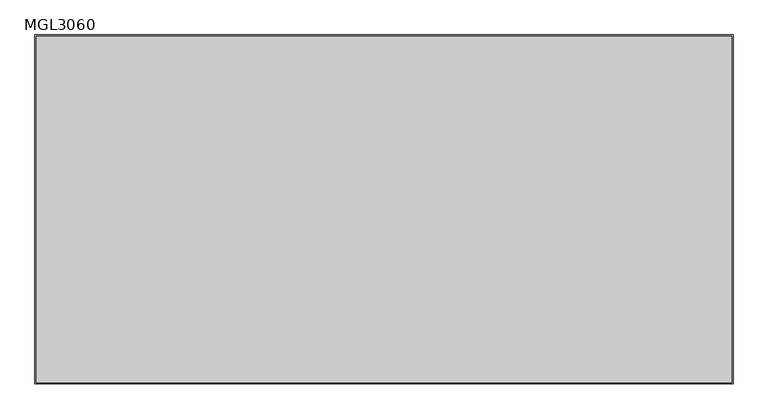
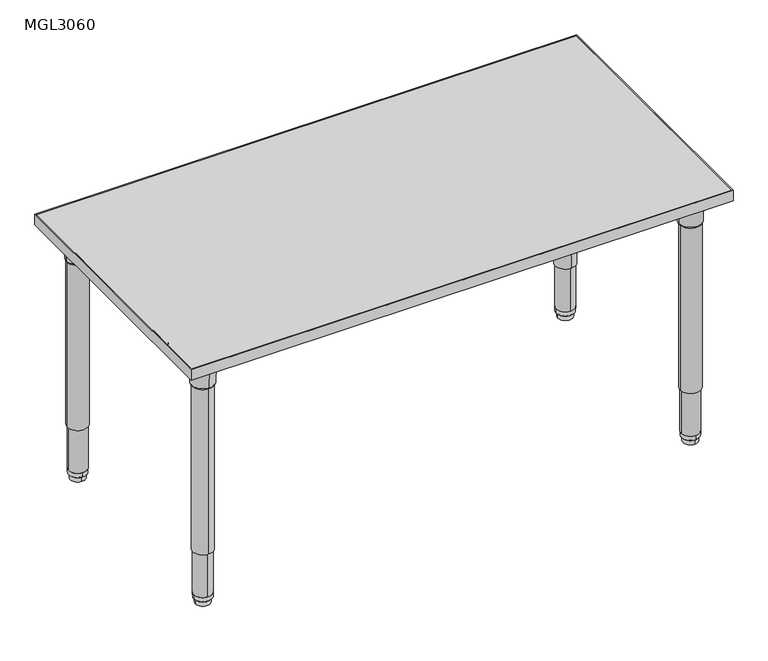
"""IFC4 building model written with IfcOpenShell, lengths in millimetres: furniture geometry, ERG-Mingle-Table-Rectangle : MGL3060."""

from ifc_helpers import new_model, si_unit, point, frame, frame_2d, origin, place, context, project, spatial, polyline, circle_curve, trimmed, segment, composite_curve, outline, extrude, source, transform, mapped, element, save
from ifc_brep_helpers import plane_surface, cylinder_surface, revolved_surface, advanced_brep


def mgl3060_ef460943(model_context):
    return source(origin(), model_context, "Body", "SolidModel", [
        advanced_brep(
        [(655.7646842, -304.8, 650.5933069), (715.8353158, -304.8, 650.5933069), (685.8, -304.8, 650.5933069), (653.656117, -304.8, 654.3580481), (717.943883, -304.8, 654.3580481), (652.7206351, -304.8, 707.7631458), (718.8793649, -304.8, 707.7631458), (649.271083, -304.8, 714.1198315), (722.328917, -304.8, 714.1198315), (649.271083, -304.8, 726.8198315), (722.328917, -304.8, 726.8198315), (685.8, -304.8, 726.8198315)],
        [
            (0, 1, circle_curve(frame((685.8, -304.8, 650.5933069), z_axis=(0.0, 0.0, -1.0), x_axis=(1.0, 0.0, 0.0)), 30.0353158)),
            (1, 2),
            (2, 0),
            (1, 0, circle_curve(frame((685.8, -304.8, 650.5933069), z_axis=(0.0, 0.0, -1.0), x_axis=(1.0, 0.0, 0.0)), 30.0353158)),
            (3, 4, circle_curve(frame((685.8, -304.8, 654.3580481), z_axis=(0.0, 0.0, -1.0), x_axis=(1.0, 0.0, 0.0)), 32.143883)),
            (4, 1),
            (0, 3),
            (4, 3, circle_curve(frame((685.8, -304.8, 654.3580481), z_axis=(0.0, 0.0, -1.0), x_axis=(1.0, 0.0, 0.0)), 32.143883)),
            (5, 6, circle_curve(frame((685.8, -304.8, 707.7631458), z_axis=(0.0, 0.0, -1.0), x_axis=(1.0, 0.0, 0.0)), 33.0793649)),
            (6, 4),
            (3, 5),
            (6, 5, circle_curve(frame((685.8, -304.8, 707.7631458), z_axis=(0.0, 0.0, -1.0), x_axis=(1.0, 0.0, 0.0)), 33.0793649)),
            (7, 8, circle_curve(frame((685.8, -304.8, 714.1198315), z_axis=(0.0, 0.0, -1.0), x_axis=(1.0, 0.0, 0.0)), 36.528917)),
            (8, 6),
            (5, 7),
            (8, 7, circle_curve(frame((685.8, -304.8, 714.1198315), z_axis=(0.0, 0.0, -1.0), x_axis=(1.0, 0.0, 0.0)), 36.528917)),
            (9, 10, circle_curve(frame((685.8, -304.8, 726.8198315), z_axis=(0.0, 0.0, -1.0), x_axis=(1.0, 0.0, 0.0)), 36.528917)),
            (10, 8),
            (7, 9),
            (10, 9, circle_curve(frame((685.8, -304.8, 726.8198315), z_axis=(0.0, 0.0, -1.0), x_axis=(1.0, 0.0, 0.0)), 36.528917)),
            (11, 10),
            (9, 11),
        ],
        [
            plane_surface(frame((685.8, -304.8, 650.5933069), z_axis=(0.0, 0.0, -1.0), x_axis=(1.0, 0.0, 0.0))),
            revolved_surface(polyline([(715.8353158, -304.8, 650.5933069), (717.943883, -304.8, 654.3580481)]), (685.8, -304.8, 726.8198315), (0.0, 0.0, 1.0)),
            revolved_surface(polyline([(717.943883, -304.8, 654.3580481), (718.8793649, -304.8, 707.7631458)]), (685.8, -304.8, 726.8198315), (0.0, 0.0, 1.0)),
            revolved_surface(polyline([(718.8793649, -304.8, 707.7631458), (722.328917, -304.8, 714.1198315)]), (685.8, -304.8, 726.8198315), (0.0, 0.0, 1.0)),
            cylinder_surface(frame((685.8, -304.8, 726.8198315), z_axis=(0.0, 0.0, 1.0), x_axis=(1.0, 0.0, 0.0)), 36.528917),
            plane_surface(frame((685.8, -304.8, 726.8198315), z_axis=(0.0, 0.0, 1.0), x_axis=(1.0, 0.0, 0.0))),
        ],
        [
            (0, [[1, 2, 3]]),
            (0, [[4, -3, -2]]),
            (1, [[5, 6, -1, 7]]),
            (1, [[8, -7, -4, -6]]),
            (2, [[9, 10, -5, 11]]),
            (2, [[12, -11, -8, -10]]),
            (3, [[13, 14, -9, 15]]),
            (3, [[16, -15, -12, -14]]),
            (4, [[17, 18, -13, 19]]),
            (4, [[20, -19, -16, -18]]),
            (5, [[21, -17, 22]]),
            (5, [[-22, -20, -21]]),
        ],
    ),
        extrude(outline(composite_curve([segment(polyline([(731.673768, -222.2223426), (731.673768, -335.9483754)]), True, "CONTINUOUS"), segment(trimmed(circle_curve(frame_2d((715.798768, -335.9483754)), 15.875), [point((731.673768, -335.9483754))], [point((715.798768, -351.8233754))], False, "CARTESIAN"), True, "CONTINUOUS"), segment(polyline([(715.798768, -351.8233754), (602.0864205, -351.8233754)]), True, "CONTINUOUS"), segment(trimmed(circle_curve(frame_2d((602.0864205, -339.1233754)), 12.7), [point((602.0864205, -351.8233754))], [point((589.4491923, -337.8622394))], False, "CARTESIAN"), True, "CONTINUOUS"), segment(trimmed(circle_curve(frame_2d((731.9486077, -352.0830117)), 143.2072406), [point((589.4491923, -337.8622394))], [point((717.7111525, -209.5852622))], False, "CARTESIAN"), True, "CONTINUOUS"), segment(trimmed(circle_curve(frame_2d((718.973768, -222.2223426)), 12.7), [point((717.7111525, -209.5852622))], [point((731.673768, -222.2223426))], False, "CARTESIAN"), True, "CONTINUOUS")], self_intersect=False)), frame((0.0, 0.0, 726.8198315), z_axis=(0.0, 0.0, 1.0), x_axis=(1.0, 0.0, 0.0)), (0.0, 0.0, 1.0), 3.4301685),
        extrude(outline(composite_curve([segment(trimmed(circle_curve(frame_2d((685.8, -304.8)), 28.575), [point((714.375, -304.8))], [point((657.225, -304.8))], False, "CARTESIAN"), True, "CONTINUOUS"), segment(trimmed(circle_curve(frame_2d((685.8, -304.8)), 28.575), [point((657.225, -304.8))], [point((714.375, -304.8))], False, "CARTESIAN"), True, "CONTINUOUS")], self_intersect=False)), frame((0.0, 0.0, 158.3876979), z_axis=(0.0, 0.0, 1.0), x_axis=(1.0, 0.0, 0.0)), (0.0, 0.0, 1.0), 495.4089866),
        extrude(outline(composite_curve([segment(trimmed(circle_curve(frame_2d((685.8, -304.8)), 25.4), [point((711.2, -304.8))], [point((660.4, -304.8))], False, "CARTESIAN"), True, "CONTINUOUS"), segment(trimmed(circle_curve(frame_2d((685.8, -304.8)), 25.4), [point((660.4, -304.8))], [point((711.2, -304.8))], False, "CARTESIAN"), True, "CONTINUOUS")], self_intersect=False)), frame((0.0, 0.0, 28.9580435), z_axis=(0.0, 0.0, 1.0), x_axis=(1.0, 0.0, 0.0)), (0.0, 0.0, 1.0), 176.7049119),
        advanced_brep(
        [(685.8, -279.5649896, 28.9580185), (685.8, -330.0350104, 28.9580185), (685.8, -304.8, 28.9580185), (685.8, -279.700761, 16.3032949), (685.8, -329.899239, 16.3032949), (685.8, -281.2160619, 14.7291007), (685.8, -328.3839381, 14.7291007), (685.8, -283.6591422, 14.7291007), (685.8, -325.9408578, 14.7291007), (685.8, -283.8521336, 0.0), (685.8, -325.7478664, 0.0), (685.8, -304.8, 0.0)],
        [
            (0, 1, circle_curve(frame((685.8, -304.8, 28.9580185), z_axis=(0.0, 0.0, 1.0), x_axis=(0.0, -1.0, 0.0)), 25.2350104)),
            (1, 2),
            (2, 0),
            (1, 0, circle_curve(frame((685.8, -304.8, 28.9580185), z_axis=(0.0, 0.0, 1.0), x_axis=(0.0, -1.0, 0.0)), 25.2350104)),
            (3, 4, circle_curve(frame((685.8, -304.8, 16.3032949), z_axis=(0.0, 0.0, 1.0), x_axis=(0.0, -1.0, 0.0)), 25.099239)),
            (4, 1),
            (0, 3),
            (4, 3, circle_curve(frame((685.8, -304.8, 16.3032949), z_axis=(0.0, 0.0, 1.0), x_axis=(0.0, -1.0, 0.0)), 25.099239)),
            (5, 6, circle_curve(frame((685.8, -304.8, 14.7291007), z_axis=(0.0, 0.0, 1.0), x_axis=(0.0, -1.0, 0.0)), 23.5839381)),
            (6, 4),
            (3, 5),
            (6, 5, circle_curve(frame((685.8, -304.8, 14.7291007), z_axis=(0.0, 0.0, 1.0), x_axis=(0.0, -1.0, 0.0)), 23.5839381)),
            (7, 8, circle_curve(frame((685.8, -304.8, 14.7291007), z_axis=(0.0, 0.0, 1.0), x_axis=(0.0, -1.0, 0.0)), 21.1408578)),
            (8, 6),
            (5, 7),
            (8, 7, circle_curve(frame((685.8, -304.8, 14.7291007), z_axis=(0.0, 0.0, 1.0), x_axis=(0.0, -1.0, 0.0)), 21.1408578)),
            (9, 10, circle_curve(frame((685.8, -304.8, 0.0), z_axis=(0.0, 0.0, 1.0), x_axis=(0.0, -1.0, 0.0)), 20.9478664)),
            (10, 8),
            (7, 9),
            (10, 9, circle_curve(frame((685.8, -304.8, 0.0), z_axis=(0.0, 0.0, 1.0), x_axis=(0.0, -1.0, 0.0)), 20.9478664)),
            (11, 10),
            (9, 11),
        ],
        [
            plane_surface(frame((685.8, -304.8, 28.9580185), z_axis=(0.0, 0.0, 1.0), x_axis=(0.0, -1.0, 0.0))),
            revolved_surface(polyline([(685.8, -330.0350104, 28.9580185), (685.8, -329.899239, 16.3032949)]), (685.8, -304.8, 0.0), (0.0, 0.0, -1.0)),
            revolved_surface(polyline([(685.8, -329.899239, 16.3032949), (685.8, -328.3839381, 14.7291007)]), (685.8, -304.8, 0.0), (0.0, 0.0, -1.0)),
            plane_surface(frame((685.8, -304.8, 14.7291007), z_axis=(0.0, 0.0, -1.0), x_axis=(0.0, -1.0, 0.0))),
            revolved_surface(polyline([(685.8, -325.9408578, 14.7291007), (685.8, -325.7478664, 0.0)]), (685.8, -304.8, 0.0), (0.0, 0.0, -1.0)),
            plane_surface(frame((685.8, -304.8, 0.0), z_axis=(0.0, 0.0, -1.0), x_axis=(0.0, -1.0, 0.0))),
        ],
        [
            (0, [[1, 2, 3]]),
            (0, [[4, -3, -2]]),
            (1, [[5, 6, -1, 7]]),
            (1, [[8, -7, -4, -6]]),
            (2, [[9, 10, -5, 11]]),
            (2, [[12, -11, -8, -10]]),
            (3, [[13, 14, -9, 15]]),
            (3, [[16, -15, -12, -14]]),
            (4, [[17, 18, -13, 19]]),
            (4, [[20, -19, -16, -18]]),
            (5, [[21, -17, 22]]),
            (5, [[-22, -20, -21]]),
        ],
    ),
        advanced_brep(
        [(-685.8, -274.7646842, 650.5933069), (-685.8, -334.8353158, 650.5933069), (-685.8, -304.8, 650.5933069), (-685.8, -272.656117, 654.3580481), (-685.8, -336.943883, 654.3580481), (-685.8, -271.7206351, 707.7631458), (-685.8, -337.8793649, 707.7631458), (-685.8, -268.271083, 714.1198315), (-685.8, -341.328917, 714.1198315), (-685.8, -268.271083, 726.8198315), (-685.8, -341.328917, 726.8198315), (-685.8, -304.8, 726.8198315)],
        [
            (0, 1, circle_curve(frame((-685.8, -304.8, 650.5933069), z_axis=(0.0, 0.0, -1.0), x_axis=(0.0, -1.0, 0.0)), 30.0353158)),
            (1, 2),
            (2, 0),
            (1, 0, circle_curve(frame((-685.8, -304.8, 650.5933069), z_axis=(0.0, 0.0, -1.0), x_axis=(0.0, -1.0, 0.0)), 30.0353158)),
            (3, 4, circle_curve(frame((-685.8, -304.8, 654.3580481), z_axis=(0.0, 0.0, -1.0), x_axis=(0.0, -1.0, 0.0)), 32.143883)),
            (4, 1),
            (0, 3),
            (4, 3, circle_curve(frame((-685.8, -304.8, 654.3580481), z_axis=(0.0, 0.0, -1.0), x_axis=(0.0, -1.0, 0.0)), 32.143883)),
            (5, 6, circle_curve(frame((-685.8, -304.8, 707.7631458), z_axis=(0.0, 0.0, -1.0), x_axis=(0.0, -1.0, 0.0)), 33.0793649)),
            (6, 4),
            (3, 5),
            (6, 5, circle_curve(frame((-685.8, -304.8, 707.7631458), z_axis=(0.0, 0.0, -1.0), x_axis=(0.0, -1.0, 0.0)), 33.0793649)),
            (7, 8, circle_curve(frame((-685.8, -304.8, 714.1198315), z_axis=(0.0, 0.0, -1.0), x_axis=(0.0, -1.0, 0.0)), 36.528917)),
            (8, 6),
            (5, 7),
            (8, 7, circle_curve(frame((-685.8, -304.8, 714.1198315), z_axis=(0.0, 0.0, -1.0), x_axis=(0.0, -1.0, 0.0)), 36.528917)),
            (9, 10, circle_curve(frame((-685.8, -304.8, 726.8198315), z_axis=(0.0, 0.0, -1.0), x_axis=(0.0, -1.0, 0.0)), 36.528917)),
            (10, 8),
            (7, 9),
            (10, 9, circle_curve(frame((-685.8, -304.8, 726.8198315), z_axis=(0.0, 0.0, -1.0), x_axis=(0.0, -1.0, 0.0)), 36.528917)),
            (11, 10),
            (9, 11),
        ],
        [
            plane_surface(frame((-685.8, -304.8, 650.5933069), z_axis=(0.0, 0.0, -1.0), x_axis=(0.0, -1.0, 0.0))),
            revolved_surface(polyline([(-685.8, -334.8353158, 650.5933069), (-685.8, -336.943883, 654.3580481)]), (-685.8, -304.8, 726.8198315), (0.0, 0.0, 1.0)),
            revolved_surface(polyline([(-685.8, -336.943883, 654.3580481), (-685.8, -337.8793649, 707.7631458)]), (-685.8, -304.8, 726.8198315), (0.0, 0.0, 1.0)),
            revolved_surface(polyline([(-685.8, -337.8793649, 707.7631458), (-685.8, -341.328917, 714.1198315)]), (-685.8, -304.8, 726.8198315), (0.0, 0.0, 1.0)),
            cylinder_surface(frame((-685.8, -304.8, 726.8198315), z_axis=(0.0, 0.0, 1.0), x_axis=(0.0, -1.0, 0.0)), 36.528917),
            plane_surface(frame((-685.8, -304.8, 726.8198315), z_axis=(0.0, 0.0, 1.0), x_axis=(0.0, -1.0, 0.0))),
        ],
        [
            (0, [[1, 2, 3]]),
            (0, [[4, -3, -2]]),
            (1, [[5, 6, -1, 7]]),
            (1, [[8, -7, -4, -6]]),
            (2, [[9, 10, -5, 11]]),
            (2, [[12, -11, -8, -10]]),
            (3, [[13, 14, -9, 15]]),
            (3, [[16, -15, -12, -14]]),
            (4, [[17, 18, -13, 19]]),
            (4, [[20, -19, -16, -18]]),
            (5, [[21, -17, 22]]),
            (5, [[-22, -20, -21]]),
        ],
    ),
        extrude(outline(composite_curve([segment(polyline([(-603.2223426, -350.673768), (-716.9483754, -350.673768)]), True, "CONTINUOUS"), segment(trimmed(circle_curve(frame_2d((-716.9483754, -334.798768)), 15.875), [point((-716.9483754, -350.673768))], [point((-732.8233754, -334.798768))], False, "CARTESIAN"), True, "CONTINUOUS"), segment(polyline([(-732.8233754, -334.798768), (-732.8233754, -221.0864205)]), True, "CONTINUOUS"), segment(trimmed(circle_curve(frame_2d((-720.1233754, -221.0864205)), 12.7), [point((-732.8233754, -221.0864205))], [point((-718.8622394, -208.4491923))], False, "CARTESIAN"), True, "CONTINUOUS"), segment(trimmed(circle_curve(frame_2d((-733.0830117, -350.9486077)), 143.2072406), [point((-718.8622394, -208.4491923))], [point((-590.5852622, -336.7111525))], False, "CARTESIAN"), True, "CONTINUOUS"), segment(trimmed(circle_curve(frame_2d((-603.2223426, -337.973768)), 12.7), [point((-590.5852622, -336.7111525))], [point((-603.2223426, -350.673768))], False, "CARTESIAN"), True, "CONTINUOUS")], self_intersect=False)), frame((0.0, 0.0, 726.8198315), z_axis=(0.0, 0.0, 1.0), x_axis=(1.0, 0.0, 0.0)), (0.0, 0.0, 1.0), 3.4301685),
        extrude(outline(composite_curve([segment(trimmed(circle_curve(frame_2d((-685.8, -304.8)), 28.575), [point((-685.8, -333.375))], [point((-685.8, -276.225))], False, "CARTESIAN"), True, "CONTINUOUS"), segment(trimmed(circle_curve(frame_2d((-685.8, -304.8)), 28.575), [point((-685.8, -276.225))], [point((-685.8, -333.375))], False, "CARTESIAN"), True, "CONTINUOUS")], self_intersect=False)), frame((0.0, 0.0, 158.3876979), z_axis=(0.0, 0.0, 1.0), x_axis=(1.0, 0.0, 0.0)), (0.0, 0.0, 1.0), 495.4089866),
        extrude(outline(composite_curve([segment(trimmed(circle_curve(frame_2d((-685.8, -304.8)), 25.4), [point((-685.8, -330.2))], [point((-685.8, -279.4))], False, "CARTESIAN"), True, "CONTINUOUS"), segment(trimmed(circle_curve(frame_2d((-685.8, -304.8)), 25.4), [point((-685.8, -279.4))], [point((-685.8, -330.2))], False, "CARTESIAN"), True, "CONTINUOUS")], self_intersect=False)), frame((0.0, 0.0, 28.9580435), z_axis=(0.0, 0.0, 1.0), x_axis=(1.0, 0.0, 0.0)), (0.0, 0.0, 1.0), 176.7049119),
        advanced_brep(
        [(-660.5649896, -304.8, 28.9580185), (-711.0350104, -304.8, 28.9580185), (-685.8, -304.8, 28.9580185), (-660.700761, -304.8, 16.3032949), (-710.899239, -304.8, 16.3032949), (-662.2160619, -304.8, 14.7291007), (-709.3839381, -304.8, 14.7291007), (-664.6591422, -304.8, 14.7291007), (-706.9408578, -304.8, 14.7291007), (-664.8521336, -304.8, 0.0), (-706.7478664, -304.8, 0.0), (-685.8, -304.8, 0.0)],
        [
            (0, 1, circle_curve(frame((-685.8, -304.8, 28.9580185), z_axis=(0.0, 0.0, 1.0), x_axis=(-1.0, 0.0, 0.0)), 25.2350104)),
            (1, 2),
            (2, 0),
            (1, 0, circle_curve(frame((-685.8, -304.8, 28.9580185), z_axis=(0.0, 0.0, 1.0), x_axis=(-1.0, 0.0, 0.0)), 25.2350104)),
            (3, 4, circle_curve(frame((-685.8, -304.8, 16.3032949), z_axis=(0.0, 0.0, 1.0), x_axis=(-1.0, 0.0, 0.0)), 25.099239)),
            (4, 1),
            (0, 3),
            (4, 3, circle_curve(frame((-685.8, -304.8, 16.3032949), z_axis=(0.0, 0.0, 1.0), x_axis=(-1.0, 0.0, 0.0)), 25.099239)),
            (5, 6, circle_curve(frame((-685.8, -304.8, 14.7291007), z_axis=(0.0, 0.0, 1.0), x_axis=(-1.0, 0.0, 0.0)), 23.5839381)),
            (6, 4),
            (3, 5),
            (6, 5, circle_curve(frame((-685.8, -304.8, 14.7291007), z_axis=(0.0, 0.0, 1.0), x_axis=(-1.0, 0.0, 0.0)), 23.5839381)),
            (7, 8, circle_curve(frame((-685.8, -304.8, 14.7291007), z_axis=(0.0, 0.0, 1.0), x_axis=(-1.0, 0.0, 0.0)), 21.1408578)),
            (8, 6),
            (5, 7),
            (8, 7, circle_curve(frame((-685.8, -304.8, 14.7291007), z_axis=(0.0, 0.0, 1.0), x_axis=(-1.0, 0.0, 0.0)), 21.1408578)),
            (9, 10, circle_curve(frame((-685.8, -304.8, 0.0), z_axis=(0.0, 0.0, 1.0), x_axis=(-1.0, 0.0, 0.0)), 20.9478664)),
            (10, 8),
            (7, 9),
            (10, 9, circle_curve(frame((-685.8, -304.8, 0.0), z_axis=(0.0, 0.0, 1.0), x_axis=(-1.0, 0.0, 0.0)), 20.9478664)),
            (11, 10),
            (9, 11),
        ],
        [
            plane_surface(frame((-685.8, -304.8, 28.9580185), z_axis=(0.0, 0.0, 1.0), x_axis=(-1.0, 0.0, 0.0))),
            revolved_surface(polyline([(-711.0350104, -304.8, 28.9580185), (-710.899239, -304.8, 16.3032949)]), (-685.8, -304.8, 0.0), (0.0, 0.0, -1.0)),
            revolved_surface(polyline([(-710.899239, -304.8, 16.3032949), (-709.3839381, -304.8, 14.7291007)]), (-685.8, -304.8, 0.0), (0.0, 0.0, -1.0)),
            plane_surface(frame((-685.8, -304.8, 14.7291007), z_axis=(0.0, 0.0, -1.0), x_axis=(-1.0, 0.0, 0.0))),
            revolved_surface(polyline([(-706.9408578, -304.8, 14.7291007), (-706.7478664, -304.8, 0.0)]), (-685.8, -304.8, 0.0), (0.0, 0.0, -1.0)),
            plane_surface(frame((-685.8, -304.8, 0.0), z_axis=(0.0, 0.0, -1.0), x_axis=(-1.0, 0.0, 0.0))),
        ],
        [
            (0, [[1, 2, 3]]),
            (0, [[4, -3, -2]]),
            (1, [[5, 6, -1, 7]]),
            (1, [[8, -7, -4, -6]]),
            (2, [[9, 10, -5, 11]]),
            (2, [[12, -11, -8, -10]]),
            (3, [[13, 14, -9, 15]]),
            (3, [[16, -15, -12, -14]]),
            (4, [[17, 18, -13, 19]]),
            (4, [[20, -19, -16, -18]]),
            (5, [[21, -17, 22]]),
            (5, [[-22, -20, -21]]),
        ],
    ),
        advanced_brep(
        [(685.8, 274.7646842, 650.5933069), (685.8, 334.8353158, 650.5933069), (685.8, 304.8, 650.5933069), (685.8, 272.656117, 654.3580481), (685.8, 336.943883, 654.3580481), (685.8, 271.7206351, 707.7631458), (685.8, 337.8793649, 707.7631458), (685.8, 268.271083, 714.1198315), (685.8, 341.328917, 714.1198315), (685.8, 268.271083, 726.8198315), (685.8, 341.328917, 726.8198315), (685.8, 304.8, 726.8198315)],
        [
            (0, 1, circle_curve(frame((685.8, 304.8, 650.5933069), z_axis=(0.0, 0.0, -1.0), x_axis=(0.0, 1.0, 0.0)), 30.0353158)),
            (1, 2),
            (2, 0),
            (1, 0, circle_curve(frame((685.8, 304.8, 650.5933069), z_axis=(0.0, 0.0, -1.0), x_axis=(0.0, 1.0, 0.0)), 30.0353158)),
            (3, 4, circle_curve(frame((685.8, 304.8, 654.3580481), z_axis=(0.0, 0.0, -1.0), x_axis=(0.0, 1.0, 0.0)), 32.143883)),
            (4, 1),
            (0, 3),
            (4, 3, circle_curve(frame((685.8, 304.8, 654.3580481), z_axis=(0.0, 0.0, -1.0), x_axis=(0.0, 1.0, 0.0)), 32.143883)),
            (5, 6, circle_curve(frame((685.8, 304.8, 707.7631458), z_axis=(0.0, 0.0, -1.0), x_axis=(0.0, 1.0, 0.0)), 33.0793649)),
            (6, 4),
            (3, 5),
            (6, 5, circle_curve(frame((685.8, 304.8, 707.7631458), z_axis=(0.0, 0.0, -1.0), x_axis=(0.0, 1.0, 0.0)), 33.0793649)),
            (7, 8, circle_curve(frame((685.8, 304.8, 714.1198315), z_axis=(0.0, 0.0, -1.0), x_axis=(0.0, 1.0, 0.0)), 36.528917)),
            (8, 6),
            (5, 7),
            (8, 7, circle_curve(frame((685.8, 304.8, 714.1198315), z_axis=(0.0, 0.0, -1.0), x_axis=(0.0, 1.0, 0.0)), 36.528917)),
            (9, 10, circle_curve(frame((685.8, 304.8, 726.8198315), z_axis=(0.0, 0.0, -1.0), x_axis=(0.0, 1.0, 0.0)), 36.528917)),
            (10, 8),
            (7, 9),
            (10, 9, circle_curve(frame((685.8, 304.8, 726.8198315), z_axis=(0.0, 0.0, -1.0), x_axis=(0.0, 1.0, 0.0)), 36.528917)),
            (11, 10),
            (9, 11),
        ],
        [
            plane_surface(frame((685.8, 304.8, 650.5933069), z_axis=(0.0, 0.0, -1.0), x_axis=(0.0, 1.0, 0.0))),
            revolved_surface(polyline([(685.8, 334.8353158, 650.5933069), (685.8, 336.943883, 654.3580481)]), (685.8, 304.8, 726.8198315), (0.0, 0.0, 1.0)),
            revolved_surface(polyline([(685.8, 336.943883, 654.3580481), (685.8, 337.8793649, 707.7631458)]), (685.8, 304.8, 726.8198315), (0.0, 0.0, 1.0)),
            revolved_surface(polyline([(685.8, 337.8793649, 707.7631458), (685.8, 341.328917, 714.1198315)]), (685.8, 304.8, 726.8198315), (0.0, 0.0, 1.0)),
            cylinder_surface(frame((685.8, 304.8, 726.8198315), z_axis=(0.0, 0.0, 1.0), x_axis=(0.0, 1.0, 0.0)), 36.528917),
            plane_surface(frame((685.8, 304.8, 726.8198315), z_axis=(0.0, 0.0, 1.0), x_axis=(0.0, 1.0, 0.0))),
        ],
        [
            (0, [[1, 2, 3]]),
            (0, [[4, -3, -2]]),
            (1, [[5, 6, -1, 7]]),
            (1, [[8, -7, -4, -6]]),
            (2, [[9, 10, -5, 11]]),
            (2, [[12, -11, -8, -10]]),
            (3, [[13, 14, -9, 15]]),
            (3, [[16, -15, -12, -14]]),
            (4, [[17, 18, -13, 19]]),
            (4, [[20, -19, -16, -18]]),
            (5, [[21, -17, 22]]),
            (5, [[-22, -20, -21]]),
        ],
    ),
        extrude(outline(composite_curve([segment(polyline([(603.2223426, 350.673768), (716.9483754, 350.673768)]), True, "CONTINUOUS"), segment(trimmed(circle_curve(frame_2d((716.9483754, 334.798768)), 15.875), [point((716.9483754, 350.673768))], [point((732.8233754, 334.798768))], False, "CARTESIAN"), True, "CONTINUOUS"), segment(polyline([(732.8233754, 334.798768), (732.8233754, 221.0864205)]), True, "CONTINUOUS"), segment(trimmed(circle_curve(frame_2d((720.1233754, 221.0864205)), 12.7), [point((732.8233754, 221.0864205))], [point((718.8622394, 208.4491923))], False, "CARTESIAN"), True, "CONTINUOUS"), segment(trimmed(circle_curve(frame_2d((733.0830117, 350.9486077)), 143.2072406), [point((718.8622394, 208.4491923))], [point((590.5852622, 336.7111525))], False, "CARTESIAN"), True, "CONTINUOUS"), segment(trimmed(circle_curve(frame_2d((603.2223426, 337.973768)), 12.7), [point((590.5852622, 336.7111525))], [point((603.2223426, 350.673768))], False, "CARTESIAN"), True, "CONTINUOUS")], self_intersect=False)), frame((0.0, 0.0, 726.8198315), z_axis=(0.0, 0.0, 1.0), x_axis=(1.0, 0.0, 0.0)), (0.0, 0.0, 1.0), 3.4301685),
        extrude(outline(composite_curve([segment(trimmed(circle_curve(frame_2d((685.8, 304.8)), 28.575), [point((685.8, 333.375))], [point((685.8, 276.225))], False, "CARTESIAN"), True, "CONTINUOUS"), segment(trimmed(circle_curve(frame_2d((685.8, 304.8)), 28.575), [point((685.8, 276.225))], [point((685.8, 333.375))], False, "CARTESIAN"), True, "CONTINUOUS")], self_intersect=False)), frame((0.0, 0.0, 158.3876979), z_axis=(0.0, 0.0, 1.0), x_axis=(1.0, 0.0, 0.0)), (0.0, 0.0, 1.0), 495.4089866),
        extrude(outline(composite_curve([segment(trimmed(circle_curve(frame_2d((685.8, 304.8)), 25.4), [point((685.8, 330.2))], [point((685.8, 279.4))], False, "CARTESIAN"), True, "CONTINUOUS"), segment(trimmed(circle_curve(frame_2d((685.8, 304.8)), 25.4), [point((685.8, 279.4))], [point((685.8, 330.2))], False, "CARTESIAN"), True, "CONTINUOUS")], self_intersect=False)), frame((0.0, 0.0, 28.9580435), z_axis=(0.0, 0.0, 1.0), x_axis=(1.0, 0.0, 0.0)), (0.0, 0.0, 1.0), 176.7049119),
        advanced_brep(
        [(660.5649896, 304.8, 28.9580185), (711.0350104, 304.8, 28.9580185), (685.8, 304.8, 28.9580185), (660.700761, 304.8, 16.3032949), (710.899239, 304.8, 16.3032949), (662.2160619, 304.8, 14.7291007), (709.3839381, 304.8, 14.7291007), (664.6591422, 304.8, 14.7291007), (706.9408578, 304.8, 14.7291007), (664.8521336, 304.8, 0.0), (706.7478664, 304.8, 0.0), (685.8, 304.8, 0.0)],
        [
            (0, 1, circle_curve(frame((685.8, 304.8, 28.9580185), z_axis=(0.0, 0.0, 1.0), x_axis=(1.0, 0.0, 0.0)), 25.2350104)),
            (1, 2),
            (2, 0),
            (1, 0, circle_curve(frame((685.8, 304.8, 28.9580185), z_axis=(0.0, 0.0, 1.0), x_axis=(1.0, 0.0, 0.0)), 25.2350104)),
            (3, 4, circle_curve(frame((685.8, 304.8, 16.3032949), z_axis=(0.0, 0.0, 1.0), x_axis=(1.0, 0.0, 0.0)), 25.099239)),
            (4, 1),
            (0, 3),
            (4, 3, circle_curve(frame((685.8, 304.8, 16.3032949), z_axis=(0.0, 0.0, 1.0), x_axis=(1.0, 0.0, 0.0)), 25.099239)),
            (5, 6, circle_curve(frame((685.8, 304.8, 14.7291007), z_axis=(0.0, 0.0, 1.0), x_axis=(1.0, 0.0, 0.0)), 23.5839381)),
            (6, 4),
            (3, 5),
            (6, 5, circle_curve(frame((685.8, 304.8, 14.7291007), z_axis=(0.0, 0.0, 1.0), x_axis=(1.0, 0.0, 0.0)), 23.5839381)),
            (7, 8, circle_curve(frame((685.8, 304.8, 14.7291007), z_axis=(0.0, 0.0, 1.0), x_axis=(1.0, 0.0, 0.0)), 21.1408578)),
            (8, 6),
            (5, 7),
            (8, 7, circle_curve(frame((685.8, 304.8, 14.7291007), z_axis=(0.0, 0.0, 1.0), x_axis=(1.0, 0.0, 0.0)), 21.1408578)),
            (9, 10, circle_curve(frame((685.8, 304.8, 0.0), z_axis=(0.0, 0.0, 1.0), x_axis=(1.0, 0.0, 0.0)), 20.9478664)),
            (10, 8),
            (7, 9),
            (10, 9, circle_curve(frame((685.8, 304.8, 0.0), z_axis=(0.0, 0.0, 1.0), x_axis=(1.0, 0.0, 0.0)), 20.9478664)),
            (11, 10),
            (9, 11),
        ],
        [
            plane_surface(frame((685.8, 304.8, 28.9580185), z_axis=(0.0, 0.0, 1.0), x_axis=(1.0, 0.0, 0.0))),
            revolved_surface(polyline([(711.0350104, 304.8, 28.9580185), (710.899239, 304.8, 16.3032949)]), (685.8, 304.8, 0.0), (0.0, 0.0, -1.0)),
            revolved_surface(polyline([(710.899239, 304.8, 16.3032949), (709.3839381, 304.8, 14.7291007)]), (685.8, 304.8, 0.0), (0.0, 0.0, -1.0)),
            plane_surface(frame((685.8, 304.8, 14.7291007), z_axis=(0.0, 0.0, -1.0), x_axis=(1.0, 0.0, 0.0))),
            revolved_surface(polyline([(706.9408578, 304.8, 14.7291007), (706.7478664, 304.8, 0.0)]), (685.8, 304.8, 0.0), (0.0, 0.0, -1.0)),
            plane_surface(frame((685.8, 304.8, 0.0), z_axis=(0.0, 0.0, -1.0), x_axis=(1.0, 0.0, 0.0))),
        ],
        [
            (0, [[1, 2, 3]]),
            (0, [[4, -3, -2]]),
            (1, [[5, 6, -1, 7]]),
            (1, [[8, -7, -4, -6]]),
            (2, [[9, 10, -5, 11]]),
            (2, [[12, -11, -8, -10]]),
            (3, [[13, 14, -9, 15]]),
            (3, [[16, -15, -12, -14]]),
            (4, [[17, 18, -13, 19]]),
            (4, [[20, -19, -16, -18]]),
            (5, [[21, -17, 22]]),
            (5, [[-22, -20, -21]]),
        ],
    ),
        advanced_brep(
        [(-655.7646842, 304.8, 650.5933069), (-715.8353158, 304.8, 650.5933069), (-685.8, 304.8, 650.5933069), (-653.656117, 304.8, 654.3580481), (-717.943883, 304.8, 654.3580481), (-652.7206351, 304.8, 707.7631458), (-718.8793649, 304.8, 707.7631458), (-649.271083, 304.8, 714.1198315), (-722.328917, 304.8, 714.1198315), (-649.271083, 304.8, 726.8198315), (-722.328917, 304.8, 726.8198315), (-685.8, 304.8, 726.8198315)],
        [
            (0, 1, circle_curve(frame((-685.8, 304.8, 650.5933069), z_axis=(0.0, 0.0, -1.0), x_axis=(-1.0, 0.0, 0.0)), 30.0353158)),
            (1, 2),
            (2, 0),
            (1, 0, circle_curve(frame((-685.8, 304.8, 650.5933069), z_axis=(0.0, 0.0, -1.0), x_axis=(-1.0, 0.0, 0.0)), 30.0353158)),
            (3, 4, circle_curve(frame((-685.8, 304.8, 654.3580481), z_axis=(0.0, 0.0, -1.0), x_axis=(-1.0, 0.0, 0.0)), 32.143883)),
            (4, 1),
            (0, 3),
            (4, 3, circle_curve(frame((-685.8, 304.8, 654.3580481), z_axis=(0.0, 0.0, -1.0), x_axis=(-1.0, 0.0, 0.0)), 32.143883)),
            (5, 6, circle_curve(frame((-685.8, 304.8, 707.7631458), z_axis=(0.0, 0.0, -1.0), x_axis=(-1.0, 0.0, 0.0)), 33.0793649)),
            (6, 4),
            (3, 5),
            (6, 5, circle_curve(frame((-685.8, 304.8, 707.7631458), z_axis=(0.0, 0.0, -1.0), x_axis=(-1.0, 0.0, 0.0)), 33.0793649)),
            (7, 8, circle_curve(frame((-685.8, 304.8, 714.1198315), z_axis=(0.0, 0.0, -1.0), x_axis=(-1.0, 0.0, 0.0)), 36.528917)),
            (8, 6),
            (5, 7),
            (8, 7, circle_curve(frame((-685.8, 304.8, 714.1198315), z_axis=(0.0, 0.0, -1.0), x_axis=(-1.0, 0.0, 0.0)), 36.528917)),
            (9, 10, circle_curve(frame((-685.8, 304.8, 726.8198315), z_axis=(0.0, 0.0, -1.0), x_axis=(-1.0, 0.0, 0.0)), 36.528917)),
            (10, 8),
            (7, 9),
            (10, 9, circle_curve(frame((-685.8, 304.8, 726.8198315), z_axis=(0.0, 0.0, -1.0), x_axis=(-1.0, 0.0, 0.0)), 36.528917)),
            (11, 10),
            (9, 11),
        ],
        [
            plane_surface(frame((-685.8, 304.8, 650.5933069), z_axis=(0.0, 0.0, -1.0), x_axis=(-1.0, 0.0, 0.0))),
            revolved_surface(polyline([(-715.8353158, 304.8, 650.5933069), (-717.943883, 304.8, 654.3580481)]), (-685.8, 304.8, 726.8198315), (0.0, 0.0, 1.0)),
            revolved_surface(polyline([(-717.943883, 304.8, 654.3580481), (-718.8793649, 304.8, 707.7631458)]), (-685.8, 304.8, 726.8198315), (0.0, 0.0, 1.0)),
            revolved_surface(polyline([(-718.8793649, 304.8, 707.7631458), (-722.328917, 304.8, 714.1198315)]), (-685.8, 304.8, 726.8198315), (0.0, 0.0, 1.0)),
            cylinder_surface(frame((-685.8, 304.8, 726.8198315), z_axis=(0.0, 0.0, 1.0), x_axis=(-1.0, 0.0, 0.0)), 36.528917),
            plane_surface(frame((-685.8, 304.8, 726.8198315), z_axis=(0.0, 0.0, 1.0), x_axis=(-1.0, 0.0, 0.0))),
        ],
        [
            (0, [[1, 2, 3]]),
            (0, [[4, -3, -2]]),
            (1, [[5, 6, -1, 7]]),
            (1, [[8, -7, -4, -6]]),
            (2, [[9, 10, -5, 11]]),
            (2, [[12, -11, -8, -10]]),
            (3, [[13, 14, -9, 15]]),
            (3, [[16, -15, -12, -14]]),
            (4, [[17, 18, -13, 19]]),
            (4, [[20, -19, -16, -18]]),
            (5, [[21, -17, 22]]),
            (5, [[-22, -20, -21]]),
        ],
    ),
        extrude(outline(composite_curve([segment(polyline([(-731.673768, 222.2223426), (-731.673768, 335.9483754)]), True, "CONTINUOUS"), segment(trimmed(circle_curve(frame_2d((-715.798768, 335.9483754)), 15.875), [point((-731.673768, 335.9483754))], [point((-715.798768, 351.8233754))], False, "CARTESIAN"), True, "CONTINUOUS"), segment(polyline([(-715.798768, 351.8233754), (-602.0864205, 351.8233754)]), True, "CONTINUOUS"), segment(trimmed(circle_curve(frame_2d((-602.0864205, 339.1233754)), 12.7), [point((-602.0864205, 351.8233754))], [point((-589.4491923, 337.8622394))], False, "CARTESIAN"), True, "CONTINUOUS"), segment(trimmed(circle_curve(frame_2d((-731.9486077, 352.0830117)), 143.2072406), [point((-589.4491923, 337.8622394))], [point((-717.7111525, 209.5852622))], False, "CARTESIAN"), True, "CONTINUOUS"), segment(trimmed(circle_curve(frame_2d((-718.973768, 222.2223426)), 12.7), [point((-717.7111525, 209.5852622))], [point((-731.673768, 222.2223426))], False, "CARTESIAN"), True, "CONTINUOUS")], self_intersect=False)), frame((0.0, 0.0, 726.8198315), z_axis=(0.0, 0.0, 1.0), x_axis=(1.0, 0.0, 0.0)), (0.0, 0.0, 1.0), 3.4301685),
        extrude(outline(composite_curve([segment(trimmed(circle_curve(frame_2d((-685.8, 304.8)), 28.575), [point((-714.375, 304.8))], [point((-657.225, 304.8))], False, "CARTESIAN"), True, "CONTINUOUS"), segment(trimmed(circle_curve(frame_2d((-685.8, 304.8)), 28.575), [point((-657.225, 304.8))], [point((-714.375, 304.8))], False, "CARTESIAN"), True, "CONTINUOUS")], self_intersect=False)), frame((0.0, 0.0, 158.3876979), z_axis=(0.0, 0.0, 1.0), x_axis=(1.0, 0.0, 0.0)), (0.0, 0.0, 1.0), 495.4089866),
        extrude(outline(composite_curve([segment(trimmed(circle_curve(frame_2d((-685.8, 304.8)), 25.4), [point((-711.2, 304.8))], [point((-660.4, 304.8))], False, "CARTESIAN"), True, "CONTINUOUS"), segment(trimmed(circle_curve(frame_2d((-685.8, 304.8)), 25.4), [point((-660.4, 304.8))], [point((-711.2, 304.8))], False, "CARTESIAN"), True, "CONTINUOUS")], self_intersect=False)), frame((0.0, 0.0, 28.9580435), z_axis=(0.0, 0.0, 1.0), x_axis=(1.0, 0.0, 0.0)), (0.0, 0.0, 1.0), 176.7049119),
        advanced_brep(
        [(-685.8, 279.5649896, 28.9580185), (-685.8, 330.0350104, 28.9580185), (-685.8, 304.8, 28.9580185), (-685.8, 279.700761, 16.3032949), (-685.8, 329.899239, 16.3032949), (-685.8, 281.2160619, 14.7291007), (-685.8, 328.3839381, 14.7291007), (-685.8, 283.6591422, 14.7291007), (-685.8, 325.9408578, 14.7291007), (-685.8, 283.8521336, 0.0), (-685.8, 325.7478664, 0.0), (-685.8, 304.8, 0.0)],
        [
            (0, 1, circle_curve(frame((-685.8, 304.8, 28.9580185), z_axis=(0.0, 0.0, 1.0), x_axis=(0.0, 1.0, 0.0)), 25.2350104)),
            (1, 2),
            (2, 0),
            (1, 0, circle_curve(frame((-685.8, 304.8, 28.9580185), z_axis=(0.0, 0.0, 1.0), x_axis=(0.0, 1.0, 0.0)), 25.2350104)),
            (3, 4, circle_curve(frame((-685.8, 304.8, 16.3032949), z_axis=(0.0, 0.0, 1.0), x_axis=(0.0, 1.0, 0.0)), 25.099239)),
            (4, 1),
            (0, 3),
            (4, 3, circle_curve(frame((-685.8, 304.8, 16.3032949), z_axis=(0.0, 0.0, 1.0), x_axis=(0.0, 1.0, 0.0)), 25.099239)),
            (5, 6, circle_curve(frame((-685.8, 304.8, 14.7291007), z_axis=(0.0, 0.0, 1.0), x_axis=(0.0, 1.0, 0.0)), 23.5839381)),
            (6, 4),
            (3, 5),
            (6, 5, circle_curve(frame((-685.8, 304.8, 14.7291007), z_axis=(0.0, 0.0, 1.0), x_axis=(0.0, 1.0, 0.0)), 23.5839381)),
            (7, 8, circle_curve(frame((-685.8, 304.8, 14.7291007), z_axis=(0.0, 0.0, 1.0), x_axis=(0.0, 1.0, 0.0)), 21.1408578)),
            (8, 6),
            (5, 7),
            (8, 7, circle_curve(frame((-685.8, 304.8, 14.7291007), z_axis=(0.0, 0.0, 1.0), x_axis=(0.0, 1.0, 0.0)), 21.1408578)),
            (9, 10, circle_curve(frame((-685.8, 304.8, 0.0), z_axis=(0.0, 0.0, 1.0), x_axis=(0.0, 1.0, 0.0)), 20.9478664)),
            (10, 8),
            (7, 9),
            (10, 9, circle_curve(frame((-685.8, 304.8, 0.0), z_axis=(0.0, 0.0, 1.0), x_axis=(0.0, 1.0, 0.0)), 20.9478664)),
            (11, 10),
            (9, 11),
        ],
        [
            plane_surface(frame((-685.8, 304.8, 28.9580185), z_axis=(0.0, 0.0, 1.0), x_axis=(0.0, 1.0, 0.0))),
            revolved_surface(polyline([(-685.8, 330.0350104, 28.9580185), (-685.8, 329.899239, 16.3032949)]), (-685.8, 304.8, 0.0), (0.0, 0.0, -1.0)),
            revolved_surface(polyline([(-685.8, 329.899239, 16.3032949), (-685.8, 328.3839381, 14.7291007)]), (-685.8, 304.8, 0.0), (0.0, 0.0, -1.0)),
            plane_surface(frame((-685.8, 304.8, 14.7291007), z_axis=(0.0, 0.0, -1.0), x_axis=(0.0, 1.0, 0.0))),
            revolved_surface(polyline([(-685.8, 325.9408578, 14.7291007), (-685.8, 325.7478664, 0.0)]), (-685.8, 304.8, 0.0), (0.0, 0.0, -1.0)),
            plane_surface(frame((-685.8, 304.8, 0.0), z_axis=(0.0, 0.0, -1.0), x_axis=(0.0, 1.0, 0.0))),
        ],
        [
            (0, [[1, 2, 3]]),
            (0, [[4, -3, -2]]),
            (1, [[5, 6, -1, 7]]),
            (1, [[8, -7, -4, -6]]),
            (2, [[9, 10, -5, 11]]),
            (2, [[12, -11, -8, -10]]),
            (3, [[13, 14, -9, 15]]),
            (3, [[16, -15, -12, -14]]),
            (4, [[17, 18, -13, 19]]),
            (4, [[20, -19, -16, -18]]),
            (5, [[21, -17, 22]]),
            (5, [[-22, -20, -21]]),
        ],
    ),
        extrude(outline(polyline([(-758.825, 377.825), (758.825, 377.825), (758.825, -377.825), (-758.825, -377.825), (-758.825, 377.825)])), frame((0.0, 0.0, 730.25), z_axis=(0.0, 0.0, 1.0), x_axis=(1.0, 0.0, 0.0)), (0.0, 0.0, 1.0), 31.75),
        extrude(outline(polyline([(762.0, -381.0), (-762.0, -381.0), (-762.0, 381.0), (762.0, 381.0), (762.0, -381.0)]), holes=[polyline([(758.825, 377.825), (-758.825, 377.825), (-758.825, -377.825), (758.825, -377.825), (758.825, 377.825)])]), frame((0.0, 0.0, 730.25), z_axis=(0.0, 0.0, 1.0), x_axis=(1.0, 0.0, 0.0)), (0.0, 0.0, 1.0), 31.75),
    ])


if __name__ == "__main__":
    model = new_model("IFC4")
    model_context = context("Model", 3, world=origin())
    ifc_project = project(units=[si_unit("LENGTHUNIT", "METRE", prefix="MILLI")], contexts=[model_context])
    site = spatial("IfcSite", under=ifc_project)
    building = spatial("IfcBuilding", under=site)
    placement = place(None, origin())
    mgl3060_shape = mgl3060_ef460943(model_context)
    element("IfcFurniture", 1, ObjectType="ERG-Mingle-Table-Rectangle : MGL3060", at=placement, inside=building, context=model_context, shape_type="MappedRepresentation", body=[
        mapped(mgl3060_shape, transform((0.0, 0.0, 0.0), x_axis=(1.0, 0.0, 0.0), y_axis=(0.0, 1.0, 0.0), z_axis=(0.0, 0.0, 1.0))),
    ])
    save(model, "model.ifc")
